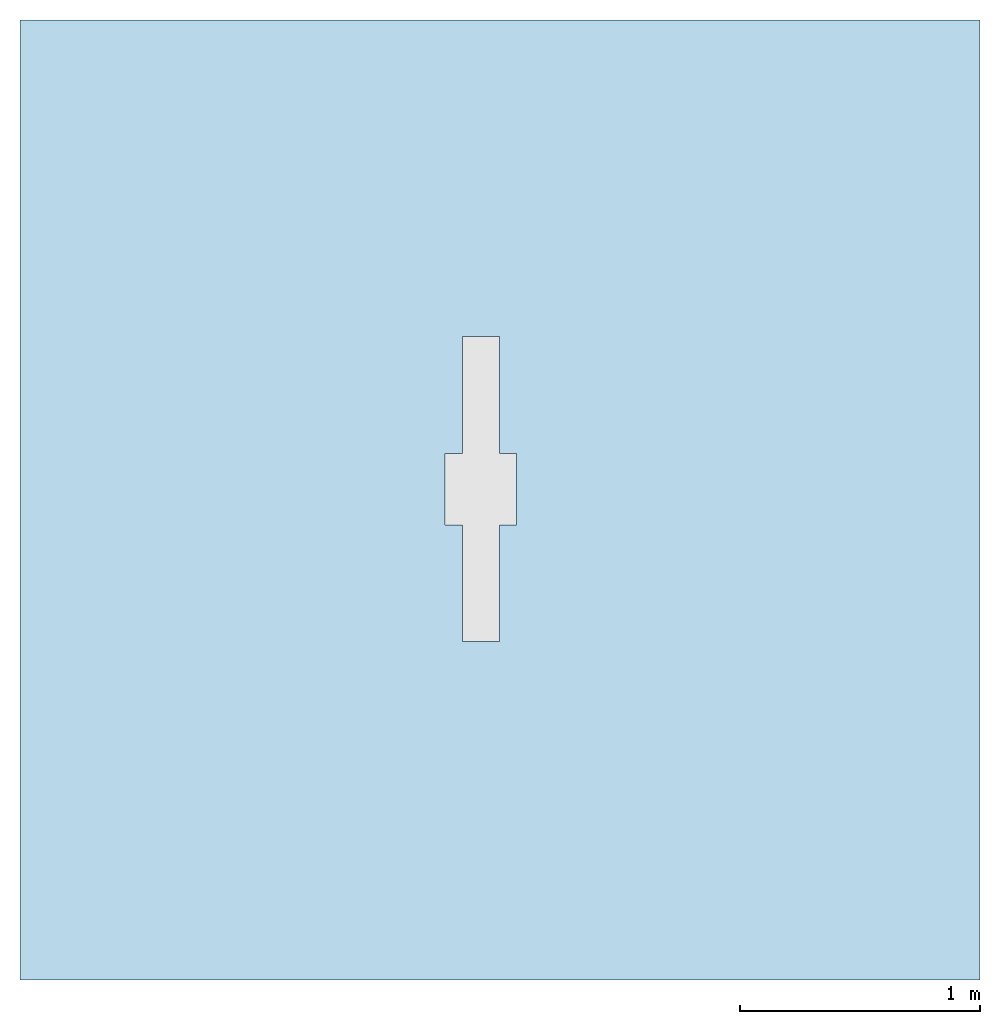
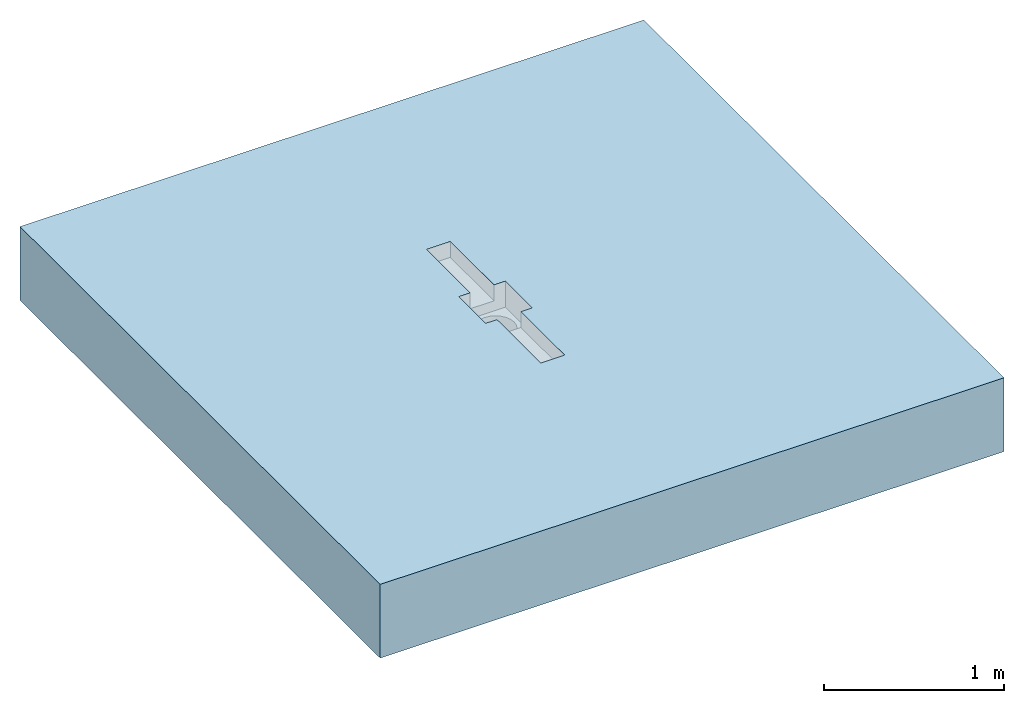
# One storey, incomplete: 1 slab, 1 opening.
"""IFC2X3 building model written with IfcOpenShell, lengths in millimetres."""

from ifc_helpers import new_model, entity, si_unit, converted_unit, direction, frame, frame_2d, origin, place, context, subcontext, project, spatial, rectangle, extrude, faceted_brep, material, layer, layer_set, layer_usage, element, save


model = new_model("IFC2X3")

# Units and contexts
model_context = context("Model", 3, precision=1e-06, world=origin(), true_north=direction((2.0, 6.12303176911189e-17, 1.0)))
context_of_model = context(None, 3, precision=1e-06, world=origin(), true_north=direction((2.0, 6.12303176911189e-17, 1.0)))
body_context = subcontext(model_context, "Body", "Model", "MODEL_VIEW")
ifc_project = project(units=[si_unit("LENGTHUNIT", "METRE", prefix="MILLI"), si_unit("AREAUNIT", "SQUARE_METRE", prefix="MILLI"), si_unit("VOLUMEUNIT", "CUBIC_METRE", prefix="MILLI"), converted_unit("PLANEANGLEUNIT", "DEGREE", entity("IfcRatioMeasure", 0.0174532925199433), si_unit("PLANEANGLEUNIT", "RADIAN"), dimensions=[0, 0, 0, 0, 0, 0, 0]), si_unit("TIMEUNIT", "SECOND")], contexts=[model_context, context_of_model])

# Site, building, storey
site_placement = place(None, origin())
site = spatial("IfcSite", under=ifc_project, at=site_placement, Name="Default", CompositionType="ELEMENT")
building_placement = place(site_placement, origin())
building = spatial("IfcBuilding", under=site, at=building_placement, CompositionType="ELEMENT")
storey_placement = place(building_placement, origin())
storey = spatial("IfcBuildingStorey", under=building, at=storey_placement, Name="Level 1", CompositionType="ELEMENT", Elevation=0.0)

# Slab, opening
ifc_material = material(Name="Concrete, Broom Finish")
ifc_layer = layer(ifc_material, 500.0)
ifc_layer_set = layer_set([ifc_layer], Name="Floor:Generic Floor - 500mm")
ifc_layer_usage = layer_usage(ifc_layer_set, "AXIS3", "POSITIVE", 0.0)
slab_placement = place(storey_placement, origin())
slab = element("IfcSlab", 1, at=slab_placement, inside=storey, material=ifc_layer_usage, Name="Floor:Generic Floor - 500mm", ObjectType="Floor:Generic Floor - 500mm", PredefinedType="FLOOR", context=body_context, shape_type="SweptSolid", body=[
    extrude(rectangle(XDim=4000.0, YDim=4000.0, at=frame_2d((0.0, 0.0), x_axis=(-1.0, 0.0))), frame((-419.114478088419, -735.273497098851, 0.0), z_axis=(0.0, 0.0, -1.0), x_axis=(-1.0, 0.0, 0.0)), (0.0, 0.0, 1.0), 500.0),
])
opening_placement = place(slab_placement, frame((-647.542058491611, -1324.80594348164, -408.300000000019)))
element("IfcOpeningElement", 2, at=opening_placement, cuts=slab, ObjectType="Recess", context=body_context, shape_type="Brep", body=[
    faceted_brep([(72.5000000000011, 784.0, 408.299999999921), (72.5000000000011, 1270.0, 300.499999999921), (72.5000000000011, 1270.0, 408.299999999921), (72.5000000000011, 784.0, 300.499999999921), (72.5000000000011, 0.0, 300.499999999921), (225.499999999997, 486.0, 300.499999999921), (72.5000000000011, 486.0, 300.499999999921), (225.499999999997, 0.0, 300.499999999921), (225.499999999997, 1270.0, 300.499999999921), (225.499999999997, 784.0, 300.499999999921), (225.499999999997, 0.0, 408.300000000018), (225.499999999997, 486.0, 408.300000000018), (225.499999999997, 1270.0, 408.300000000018), (225.499999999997, 784.0, 408.300000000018), (72.5000000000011, 486.0, 408.299999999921), (72.5000000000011, 0.0, 408.299999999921), (0.0, 784.0, 408.299999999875), (298.0, 784.0, 408.300000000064), (0.0, 486.0, 408.299999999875), (298.0, 486.0, 408.300000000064), (33.0889008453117, 666.058285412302, 232.050000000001), (45.0769515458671, 695.0, 232.050000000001), (0.0, 784.0, 232.050000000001), (64.1471862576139, 719.852813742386, 232.050000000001), (29.0, 635.0, 232.050000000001), (117.941714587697, 750.911099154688, 232.050000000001), (149.0, 755.0, 232.050000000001), (89.0, 738.923048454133, 232.050000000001), (298.0, 784.0, 232.050000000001), (33.0889008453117, 603.941714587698, 232.050000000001), (0.0, 486.0, 232.050000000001), (45.0769515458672, 575.0, 232.050000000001), (64.147186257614, 550.147186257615, 232.050000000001), (117.941714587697, 519.088900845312, 232.050000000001), (89.0, 531.076951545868, 232.050000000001), (149.0, 515.0, 232.050000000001), (180.058285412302, 750.911099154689, 232.050000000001), (209.0, 738.923048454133, 232.050000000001), (233.852813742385, 719.852813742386, 232.050000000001), (264.911099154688, 666.058285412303, 232.050000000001), (252.923048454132, 695.0, 232.050000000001), (269.0, 635.0, 232.050000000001), (298.0, 486.0, 232.050000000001), (209.0, 531.076951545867, 232.050000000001), (180.058285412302, 519.088900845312, 232.050000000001), (264.911099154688, 603.941714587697, 232.050000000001), (252.923048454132, 575.0, 232.050000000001), (233.852813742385, 550.147186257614, 232.050000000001), (180.058285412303, 750.911099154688, 0.0), (149.0, 755.0, 0.0), (233.852813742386, 719.852813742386, 0.0), (209.0, 738.923048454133, 0.0), (264.911099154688, 666.058285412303, 0.0), (252.923048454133, 695.0, 0.0), (45.0769515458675, 695.0, 0.0), (29.0, 635.0, 0.0), (64.1471862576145, 719.852813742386, 0.0), (89.0, 738.923048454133, 0.0), (117.941714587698, 750.911099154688, 0.0), (33.0889008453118, 666.058285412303, 0.0), (45.0769515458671, 575.0, 0.0), (264.911099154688, 603.941714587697, 0.0), (64.147186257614, 550.147186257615, 0.0), (252.923048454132, 575.0, 0.0), (233.852813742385, 550.147186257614, 0.0), (180.058285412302, 519.088900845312, 0.0), (209.0, 531.076951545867, 0.0), (33.0889008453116, 603.941714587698, 0.0), (117.941714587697, 519.088900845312, 0.0), (149.0, 515.0, 0.0), (89.0, 531.076951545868, 0.0), (269.0, 635.0, 0.0)], [[[0, 1, 2]], [[1, 0, 3]], [[4, 5, 6]], [[5, 4, 7]], [[3, 8, 1]], [[8, 3, 9]], [[10, 11, 5]], [[5, 7, 10]], [[9, 12, 8]], [[12, 9, 13]], [[4, 6, 14]], [[14, 15, 4]], [[8, 12, 2]], [[2, 1, 8]], [[15, 7, 4]], [[7, 15, 10]], [[14, 16, 0]], [[13, 0, 2]], [[2, 12, 13]], [[11, 13, 17]], [[13, 11, 0]], [[16, 14, 18]], [[11, 15, 14]], [[15, 11, 10]], [[17, 19, 11]], [[0, 11, 14]], [[20, 21, 22]], [[23, 22, 21]], [[24, 20, 22]], [[22, 25, 26]], [[22, 23, 27]], [[22, 27, 25]], [[26, 28, 22]], [[29, 24, 30]], [[22, 30, 24]], [[31, 29, 30]], [[30, 32, 31]], [[30, 33, 34]], [[30, 34, 32]], [[35, 33, 30]], [[28, 36, 37]], [[28, 37, 38]], [[39, 28, 40]], [[38, 40, 28]], [[28, 39, 41]], [[41, 42, 28]], [[28, 26, 36]], [[42, 43, 44]], [[42, 44, 35]], [[42, 45, 46]], [[43, 42, 47]], [[46, 47, 42]], [[42, 41, 45]], [[30, 42, 35]], [[9, 3, 22]], [[16, 22, 3]], [[17, 9, 28]], [[22, 28, 9]], [[3, 0, 16]], [[9, 17, 13]], [[17, 28, 42]], [[42, 19, 17]], [[6, 5, 42]], [[19, 42, 5]], [[18, 6, 30]], [[42, 30, 6]], [[5, 11, 19]], [[6, 18, 14]], [[18, 30, 22]], [[22, 16, 18]], [[48, 49, 50]], [[51, 48, 50]], [[52, 53, 50]], [[54, 50, 49]], [[52, 50, 55]], [[56, 54, 57]], [[49, 58, 57]], [[59, 55, 54]], [[54, 49, 57]], [[54, 55, 50]], [[55, 60, 52]], [[61, 52, 62]], [[63, 61, 64]], [[61, 65, 66]], [[64, 61, 66]], [[65, 61, 62]], [[52, 60, 62]], [[60, 55, 67]], [[68, 69, 70]], [[62, 70, 69]], [[65, 62, 69]], [[52, 61, 71]], [[60, 67, 29]], [[60, 31, 62]], [[68, 70, 34]], [[32, 70, 62]], [[69, 68, 33]], [[55, 24, 67]], [[24, 29, 67]], [[29, 31, 60]], [[31, 32, 62]], [[70, 32, 34]], [[34, 33, 68]], [[33, 35, 69]], [[66, 65, 44]], [[66, 43, 64]], [[61, 63, 46]], [[47, 63, 64]], [[71, 61, 45]], [[35, 44, 65]], [[44, 43, 66]], [[43, 47, 64]], [[47, 46, 63]], [[61, 46, 45]], [[45, 41, 71]], [[69, 35, 65]], [[39, 52, 71]], [[48, 51, 37]], [[50, 38, 51]], [[48, 36, 49]], [[41, 39, 71]], [[53, 52, 39]], [[40, 53, 39]], [[40, 50, 53]], [[40, 38, 50]], [[51, 38, 37]], [[37, 36, 48]], [[36, 26, 49]], [[57, 58, 25]], [[57, 27, 56]], [[59, 54, 21]], [[23, 54, 56]], [[55, 59, 20]], [[26, 25, 58]], [[25, 27, 57]], [[27, 23, 56]], [[23, 21, 54]], [[59, 21, 20]], [[20, 24, 55]], [[49, 26, 58]]]),
])

save(model, "model.ifc")
